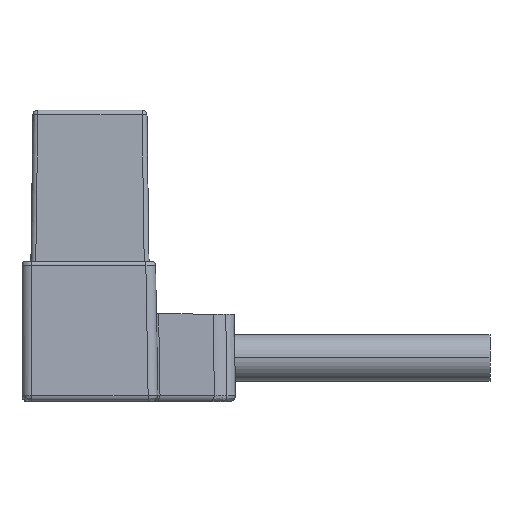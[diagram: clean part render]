
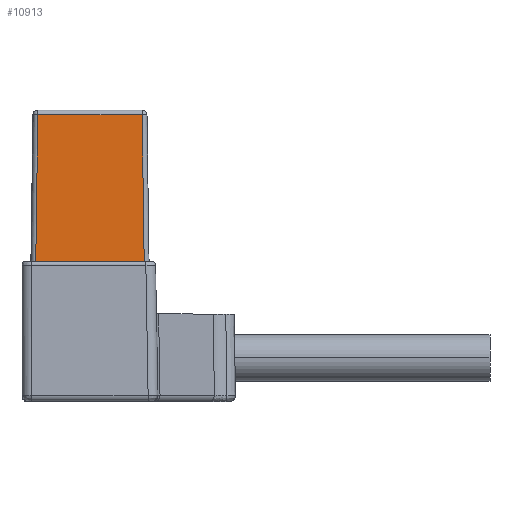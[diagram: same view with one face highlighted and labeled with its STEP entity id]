
A CAD part, top view. The second image highlights one B-rep face of the part: STEP entity #10913.
In plain terms, the highlighted planar face has unit normal (0, 0.014, 1).
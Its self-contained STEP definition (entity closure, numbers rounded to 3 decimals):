
#3721=DIRECTION('',(-1.,0.,0.));
#3722=VECTOR('',#3721,5.372);
#3723=CARTESIAN_POINT('',(2.686,8.153,6.686));
#3724=LINE('',#3723,#3722);
#3728=DIRECTION('',(0.014,-1.,0.014));
#3729=VECTOR('',#3728,7.555);
#3730=CARTESIAN_POINT('',(2.686,8.153,6.686));
#3731=LINE('',#3730,#3729);
#3735=DIRECTION('',(1.,0.,0.));
#3736=VECTOR('',#3735,5.583);
#3737=CARTESIAN_POINT('',(-2.792,0.6,6.792));
#3738=LINE('',#3737,#3736);
#3742=DIRECTION('',(0.014,1.,-0.014));
#3743=VECTOR('',#3742,7.555);
#3744=CARTESIAN_POINT('',(-2.792,0.6,6.792));
#3745=LINE('',#3744,#3743);
#6933=CARTESIAN_POINT('',(-2.792,0.6,6.792));
#6934=CARTESIAN_POINT('',(2.792,0.6,6.792));
#6935=VERTEX_POINT('',#6933);
#6936=VERTEX_POINT('',#6934);
#7037=CARTESIAN_POINT('',(-2.686,8.153,6.686));
#7038=VERTEX_POINT('',#7037);
#7039=CARTESIAN_POINT('',(2.686,8.153,6.686));
#7040=VERTEX_POINT('',#7039);
#10900=CARTESIAN_POINT('',(-12.082,0.,6.8));
#10901=DIRECTION('',(0.,0.014,1.));
#10902=DIRECTION('',(1.,0.,0.));
#10903=AXIS2_PLACEMENT_3D('',#10900,#10901,#10902);
#10904=PLANE('',#10903);
#10906=ORIENTED_EDGE('',*,*,#10905,.F.);
#10907=ORIENTED_EDGE('',*,*,#10888,.T.);
#10908=ORIENTED_EDGE('',*,*,#7542,.F.);
#10910=ORIENTED_EDGE('',*,*,#10909,.T.);
#10911=EDGE_LOOP('',(#10906,#10907,#10908,#10910));
#10912=FACE_OUTER_BOUND('',#10911,.F.);
#10913=ADVANCED_FACE('',(#10912),#10904,.T.);
#7542=EDGE_CURVE('',#6935,#6936,#3738,.T.);
#10888=EDGE_CURVE('',#7040,#6936,#3731,.T.);
#10905=EDGE_CURVE('',#7040,#7038,#3724,.T.);
#10909=EDGE_CURVE('',#6935,#7038,#3745,.T.);
